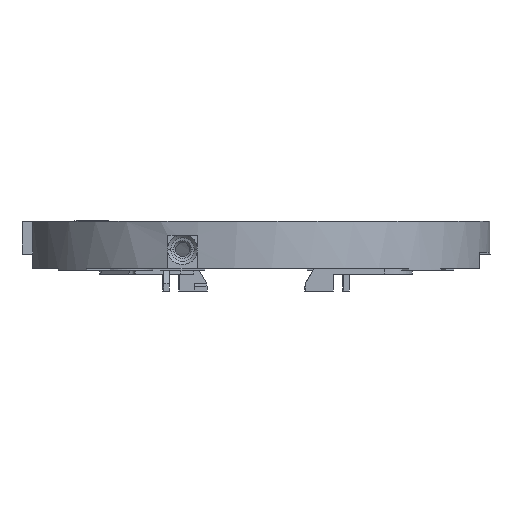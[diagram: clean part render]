
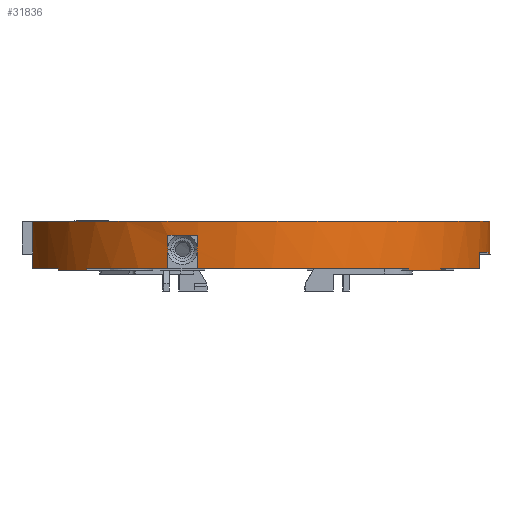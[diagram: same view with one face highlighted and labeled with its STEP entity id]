
A CAD part, left-side view. The second image highlights one B-rep face of the part: STEP entity #31836.
In plain terms, the highlighted cylindrical face has radius 25 mm (diameter 50 mm), a partial arc.
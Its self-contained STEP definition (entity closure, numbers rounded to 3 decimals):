
#7391=CARTESIAN_POINT(' ',(-13.344,21.141,0.));
#7392=VERTEX_POINT(' ',#7391);
#7406=CARTESIAN_POINT(' ',(0.,0.,0.));
#7411=DIRECTION(' ',(-0.,0.,1.));
#7416=DIRECTION(' ',(-0.301,0.954,0.));
#7421=AXIS2_PLACEMENT_3D(' ',#7406,#7411,#7416);
#7426=CIRCLE('',#7421,25.);
#7431=CARTESIAN_POINT(' ',(-7.518,23.843,0.));
#7432=VERTEX_POINT(' ',#7431);
#7436=EDGE_CURVE(' ',#7432,#7392,#7426,.T.);
#11276=CARTESIAN_POINT(' ',(-23.155,9.425,0.));
#11277=VERTEX_POINT(' ',#11276);
#11296=CARTESIAN_POINT(' ',(0.,0.,0.));
#11301=DIRECTION(' ',(-0.,0.,1.));
#11306=DIRECTION(' ',(-0.691,0.722,0.));
#11311=AXIS2_PLACEMENT_3D(' ',#11296,#11301,#11306);
#11316=CIRCLE('',#11311,25.);
#11321=CARTESIAN_POINT(' ',(-17.284,18.062,0.));
#11322=VERTEX_POINT(' ',#11321);
#11326=EDGE_CURVE(' ',#11322,#11277,#11316,.T.);
#13041=CARTESIAN_POINT(' ',(-7.518,-23.843,0.));
#13042=VERTEX_POINT(' ',#13041);
#13056=CARTESIAN_POINT(' ',(0.,0.,0.));
#13061=DIRECTION(' ',(-0.,-0.,1.));
#13066=DIRECTION(' ',(-0.612,-0.791,0.));
#13071=AXIS2_PLACEMENT_3D(' ',#13056,#13061,#13066);
#13076=CIRCLE('',#13071,25.);
#13081=CARTESIAN_POINT(' ',(-15.291,-19.779,0.));
#13082=VERTEX_POINT(' ',#13081);
#13086=EDGE_CURVE(' ',#13082,#13042,#13076,.T.);
#13421=CARTESIAN_POINT(' ',(-18.927,-16.333,0.));
#13422=VERTEX_POINT(' ',#13421);
#13436=CARTESIAN_POINT(' ',(0.,0.,0.));
#13441=DIRECTION(' ',(-0.,0.,1.));
#13446=DIRECTION(' ',(-0.968,0.251,0.));
#13451=AXIS2_PLACEMENT_3D(' ',#13436,#13441,#13446);
#13456=CIRCLE('',#13451,25.);
#13461=CARTESIAN_POINT(' ',(-24.2,6.275,0.));
#13462=VERTEX_POINT(' ',#13461);
#13466=EDGE_CURVE(' ',#13462,#13422,#13456,.T.);
#31026=CARTESIAN_POINT(' ',(-13.344,21.141,-0.2));
#31027=VERTEX_POINT(' ',#31026);
#31041=CARTESIAN_POINT(' ',(-13.344,21.141,-0.2));
#31046=DIRECTION(' ',(0.,0.,1.));
#31051=VECTOR(' ',#31046,1.);
#31056=LINE('',#31041,#31051);
#31061=EDGE_CURVE(' ',#31027,#7392,#31056,.T.);
#31091=CARTESIAN_POINT(' ',(0.,0.,22.5));
#31096=DIRECTION(' ',(0.,0.,1.));
#31101=DIRECTION(' ',(-0.301,0.954,0.));
#31106=AXIS2_PLACEMENT_3D(' ',#31091,#31096,#31101);
#31111=CYLINDRICAL_SURFACE(' ',#31106,25.);
#31116=ORIENTED_EDGE(' ',*,*,#11326,.T.);
#31121=CARTESIAN_POINT(' ',(-23.155,9.425,0.));
#31126=DIRECTION(' ',(0.,0.,1.));
#31131=VECTOR(' ',#31126,1.);
#31136=LINE('',#31121,#31131);
#31141=CARTESIAN_POINT(' ',(-23.155,9.425,1.718));
#31142=VERTEX_POINT(' ',#31141);
#31146=EDGE_CURVE(' ',#11277,#31142,#31136,.T.);
#31151=ORIENTED_EDGE(' ',*,*,#31146,.T.);
#31156=CARTESIAN_POINT(' ',(-23.705,8.076,2.));
#31161=DIRECTION(' ',(0.926,-0.377,0.));
#31166=DIRECTION(' ',(0.371,0.909,-0.19));
#31171=AXIS2_PLACEMENT_3D(' ',#31156,#31161,#31166);
#31176=CIRCLE('',#31171,1.484);
#31181=CARTESIAN_POINT(' ',(-23.155,9.425,2.282));
#31182=VERTEX_POINT(' ',#31181);
#31186=EDGE_CURVE(' ',#31142,#31182,#31176,.T.);
#31191=ORIENTED_EDGE(' ',*,*,#31186,.T.);
#31196=CARTESIAN_POINT(' ',(-23.155,9.425,2.282));
#31201=DIRECTION(' ',(0.,0.,1.));
#31206=VECTOR(' ',#31201,1.);
#31211=LINE('',#31196,#31206);
#31216=CARTESIAN_POINT(' ',(-23.155,9.425,3.5));
#31217=VERTEX_POINT(' ',#31216);
#31221=EDGE_CURVE(' ',#31182,#31217,#31211,.T.);
#31226=ORIENTED_EDGE(' ',*,*,#31221,.T.);
#31231=CARTESIAN_POINT(' ',(0.,0.,3.5));
#31236=DIRECTION(' ',(0.,-0.,-1.));
#31241=DIRECTION(' ',(-0.968,0.251,0.));
#31246=AXIS2_PLACEMENT_3D(' ',#31231,#31236,#31241);
#31251=CIRCLE('',#31246,25.);
#31256=CARTESIAN_POINT(' ',(-24.2,6.275,3.5));
#31257=VERTEX_POINT(' ',#31256);
#31261=EDGE_CURVE(' ',#31257,#31217,#31251,.T.);
#31266=ORIENTED_EDGE(' ',*,*,#31261,.F.);
#31271=CARTESIAN_POINT(' ',(-24.2,6.275,2.282));
#31276=DIRECTION(' ',(0.,0.,1.));
#31281=VECTOR(' ',#31276,1.);
#31286=LINE('',#31271,#31281);
#31291=CARTESIAN_POINT(' ',(-24.2,6.275,2.282));
#31292=VERTEX_POINT(' ',#31291);
#31296=EDGE_CURVE(' ',#31292,#31257,#31286,.T.);
#31301=ORIENTED_EDGE(' ',*,*,#31296,.F.);
#31306=CARTESIAN_POINT(' ',(-23.818,7.75,2.));
#31311=DIRECTION(' ',(0.968,-0.251,0.));
#31316=DIRECTION(' ',(-0.246,-0.952,0.182));
#31321=AXIS2_PLACEMENT_3D(' ',#31306,#31311,#31316);
#31326=CIRCLE('',#31321,1.55);
#31331=CARTESIAN_POINT(' ',(-24.2,6.275,1.718));
#31332=VERTEX_POINT(' ',#31331);
#31336=EDGE_CURVE(' ',#31292,#31332,#31326,.T.);
#31341=ORIENTED_EDGE(' ',*,*,#31336,.T.);
#31346=CARTESIAN_POINT(' ',(-24.2,6.275,0.));
#31351=DIRECTION(' ',(0.,0.,1.));
#31356=VECTOR(' ',#31351,1.);
#31361=LINE('',#31346,#31356);
#31366=EDGE_CURVE(' ',#13462,#31332,#31361,.T.);
#31371=ORIENTED_EDGE(' ',*,*,#31366,.F.);
#31376=ORIENTED_EDGE(' ',*,*,#13466,.T.);
#31381=CARTESIAN_POINT(' ',(-18.927,-16.333,-0.2));
#31386=DIRECTION(' ',(0.,0.,1.));
#31391=VECTOR(' ',#31386,1.);
#31396=LINE('',#31381,#31391);
#31401=CARTESIAN_POINT(' ',(-18.927,-16.333,-0.2));
#31402=VERTEX_POINT(' ',#31401);
#31406=EDGE_CURVE(' ',#31402,#13422,#31396,.T.);
#31411=ORIENTED_EDGE(' ',*,*,#31406,.F.);
#31416=CARTESIAN_POINT(' ',(0.,0.,-0.2));
#31421=DIRECTION(' ',(0.,0.,1.));
#31426=DIRECTION(' ',(-0.757,-0.653,0.));
#31431=AXIS2_PLACEMENT_3D(' ',#31416,#31421,#31426);
#31436=CIRCLE('',#31431,25.);
#31441=CARTESIAN_POINT(' ',(-15.291,-19.779,-0.2));
#31442=VERTEX_POINT(' ',#31441);
#31446=EDGE_CURVE(' ',#31402,#31442,#31436,.T.);
#31451=ORIENTED_EDGE(' ',*,*,#31446,.T.);
#31456=CARTESIAN_POINT(' ',(-15.291,-19.779,-0.2));
#31461=DIRECTION(' ',(0.,0.,1.));
#31466=VECTOR(' ',#31461,1.);
#31471=LINE('',#31456,#31466);
#31476=EDGE_CURVE(' ',#31442,#13082,#31471,.T.);
#31481=ORIENTED_EDGE(' ',*,*,#31476,.T.);
#31486=ORIENTED_EDGE(' ',*,*,#13086,.T.);
#31491=CARTESIAN_POINT(' ',(-7.518,-23.843,1.7));
#31496=DIRECTION(' ',(0.,0.,-1.));
#31501=VECTOR(' ',#31496,1.);
#31506=LINE('',#31491,#31501);
#31511=CARTESIAN_POINT(' ',(-7.518,-23.843,1.7));
#31512=VERTEX_POINT(' ',#31511);
#31516=EDGE_CURVE(' ',#31512,#13042,#31506,.T.);
#31521=ORIENTED_EDGE(' ',*,*,#31516,.F.);
#31526=CARTESIAN_POINT(' ',(0.,0.,1.7));
#31531=DIRECTION(' ',(0.,0.,1.));
#31536=DIRECTION(' ',(-0.301,-0.954,0.));
#31541=AXIS2_PLACEMENT_3D(' ',#31526,#31531,#31536);
#31546=CIRCLE('',#31541,25.);
#31551=CARTESIAN_POINT(' ',(-3.263,-24.786,1.7));
#31552=VERTEX_POINT(' ',#31551);
#31556=EDGE_CURVE(' ',#31512,#31552,#31546,.T.);
#31561=ORIENTED_EDGE(' ',*,*,#31556,.T.);
#31566=CARTESIAN_POINT(' ',(-3.263,-24.786,1.7));
#31571=DIRECTION(' ',(0.,0.,-1.));
#31576=VECTOR(' ',#31571,1.);
#31581=LINE('',#31566,#31576);
#31586=CARTESIAN_POINT(' ',(-3.263,-24.786,1.5));
#31587=VERTEX_POINT(' ',#31586);
#31591=EDGE_CURVE(' ',#31552,#31587,#31581,.T.);
#31596=ORIENTED_EDGE(' ',*,*,#31591,.T.);
#31601=CARTESIAN_POINT(' ',(0.,0.,1.5));
#31606=DIRECTION(' ',(0.,0.,-1.));
#31611=DIRECTION(' ',(0.044,-0.999,0.));
#31616=AXIS2_PLACEMENT_3D(' ',#31601,#31606,#31611);
#31621=CIRCLE('',#31616,25.);
#31626=CARTESIAN_POINT(' ',(1.09,-24.976,1.5));
#31627=VERTEX_POINT(' ',#31626);
#31631=EDGE_CURVE(' ',#31627,#31587,#31621,.T.);
#31636=ORIENTED_EDGE(' ',*,*,#31631,.F.);
#31641=CARTESIAN_POINT(' ',(1.09,-24.976,5.));
#31646=DIRECTION(' ',(0.,0.,-1.));
#31651=VECTOR(' ',#31646,1.);
#31656=LINE('',#31641,#31651);
#31661=CARTESIAN_POINT(' ',(1.09,-24.976,5.));
#31662=VERTEX_POINT(' ',#31661);
#31666=EDGE_CURVE(' ',#31662,#31627,#31656,.T.);
#31671=ORIENTED_EDGE(' ',*,*,#31666,.F.);
#31676=CARTESIAN_POINT(' ',(0.,0.,5.));
#31681=DIRECTION(' ',(-0.,0.,1.));
#31686=DIRECTION(' ',(-0.301,0.954,0.));
#31691=AXIS2_PLACEMENT_3D(' ',#31676,#31681,#31686);
#31696=CIRCLE('',#31691,25.);
#31701=CARTESIAN_POINT(' ',(-7.518,23.843,5.));
#31702=VERTEX_POINT(' ',#31701);
#31706=EDGE_CURVE(' ',#31702,#31662,#31696,.T.);
#31711=ORIENTED_EDGE(' ',*,*,#31706,.F.);
#31716=CARTESIAN_POINT(' ',(-7.518,23.843,5.));
#31721=DIRECTION(' ',(0.,0.,-1.));
#31726=VECTOR(' ',#31721,1.);
#31731=LINE('',#31716,#31726);
#31736=EDGE_CURVE(' ',#31702,#7432,#31731,.T.);
#31741=ORIENTED_EDGE(' ',*,*,#31736,.T.);
#31746=ORIENTED_EDGE(' ',*,*,#7436,.T.);
#31751=ORIENTED_EDGE(' ',*,*,#31061,.F.);
#31756=CARTESIAN_POINT(' ',(0.,0.,-0.2));
#31761=DIRECTION(' ',(0.,0.,1.));
#31766=DIRECTION(' ',(-0.534,0.846,0.));
#31771=AXIS2_PLACEMENT_3D(' ',#31756,#31761,#31766);
#31776=CIRCLE('',#31771,25.);
#31781=CARTESIAN_POINT(' ',(-17.284,18.062,-0.2));
#31782=VERTEX_POINT(' ',#31781);
#31786=EDGE_CURVE(' ',#31027,#31782,#31776,.T.);
#31791=ORIENTED_EDGE(' ',*,*,#31786,.T.);
#31796=CARTESIAN_POINT(' ',(-17.284,18.062,-0.2));
#31801=DIRECTION(' ',(0.,0.,1.));
#31806=VECTOR(' ',#31801,1.);
#31811=LINE('',#31796,#31806);
#31816=EDGE_CURVE(' ',#31782,#11322,#31811,.T.);
#31821=ORIENTED_EDGE(' ',*,*,#31816,.T.);
#31826=EDGE_LOOP(' ',(#31116,#31151,#31191,#31226,#31266,#31301,#31341,#31371,#31376,#31411,#31451,#31481,#31486,#31521,#31561,#31596,#31636,#31671,#31711,#31741,#31746,#31751,#31791,#31821));
#31831=FACE_OUTER_BOUND(' ',#31826,.T.);
#31836=ADVANCED_FACE('',(#31831),#31111,.T.);
